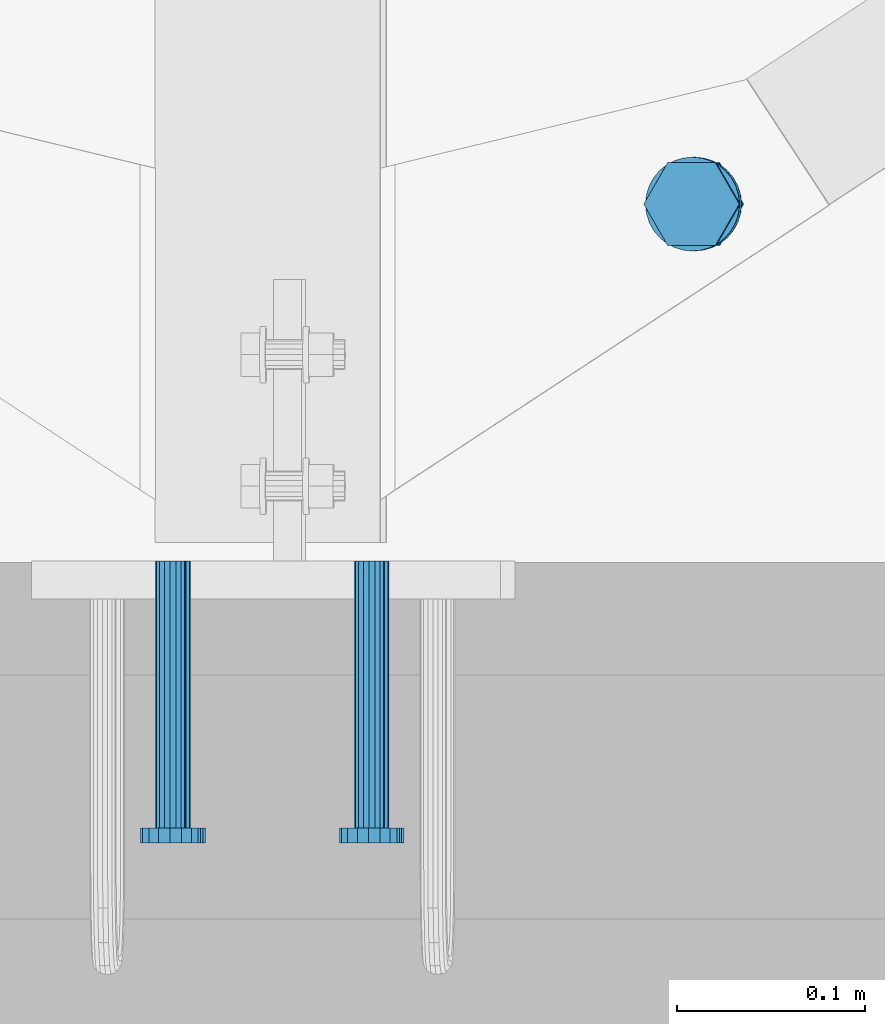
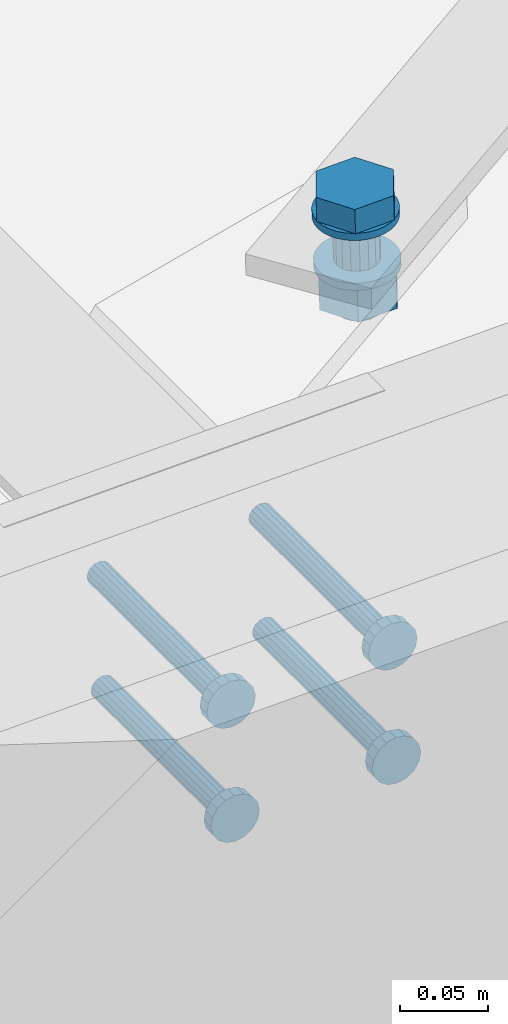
# One storey, part 107 of 476: 5 mechanical fasteners.
"""IFC2X3 building model written with IfcOpenShell, lengths in millimetres."""

from ifc_helpers import new_model, entity, si_unit, converted_unit, origin_with_axes, place, context, project, spatial, faceted_brep, element, save


model = new_model("IFC2X3")

# Units and contexts
model_context = context("Model", 3, precision=1e-09, world=origin_with_axes())
ifc_project = project(units=[si_unit("LENGTHUNIT", "METRE", prefix="MILLI"), si_unit("AREAUNIT", "SQUARE_METRE"), si_unit("VOLUMEUNIT", "CUBIC_METRE"), converted_unit("PLANEANGLEUNIT", "DEGREE", entity("IfcPlaneAngleMeasure", 0.01745329), si_unit("PLANEANGLEUNIT", "RADIAN"), dimensions=[0, 0, 0, 0, 0, 0, 0])], contexts=[model_context])

# Site, building, storey
site_placement = place(None, origin_with_axes())
site = spatial("IfcSite", under=ifc_project, at=site_placement, Name="mKR Teilneubau & Sanierung BA1 - Ostfildern", CompositionType="ELEMENT")
building_placement = place(site_placement, origin_with_axes())
building = spatial("IfcBuilding", under=site, at=building_placement, Name="Struktur 1", CompositionType="ELEMENT")
storey_placement = place(building_placement, origin_with_axes())
storey = spatial("IfcBuildingStorey", under=building, at=storey_placement, Name="Default Storey", CompositionType="ELEMENT", Elevation=0.0)

# Mechanical fasteners
mechanical_fastener_1_placement = place(None, origin_with_axes())
element("IfcMechanicalFastener", 1, at=mechanical_fastener_1_placement, inside=storey, ObjectType="-", NominalDiameter=27.0, NominalLength=70.0, context=model_context, shape_type="Brep", body=[
    faceted_brep([(15290.393068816, -23314.458323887, 5443.462389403), (15290.24297143, -23314.458323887, 5448.460135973), (15295.118031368, -23314.938691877, 5448.60654871), (15295.268128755, -23314.938691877, 5443.60880214), (15299.805745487, -23316.361335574, 5448.747334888), (15299.955842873, -23316.361335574, 5443.749588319), (15304.125967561, -23318.67158358, 5448.877084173), (15304.276064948, -23318.67158358, 5443.879337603), (15307.91267388, -23321.780654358, 5448.990810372), (15308.062771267, -23321.780654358, 5443.993063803), (15311.020343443, -23325.569068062, 5449.084143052), (15311.17044083, -23325.569068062, 5444.086396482), (15313.329550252, -23329.891238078, 5449.153495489), (15313.479647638, -23329.891238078, 5444.15574892), (15314.751552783, -23334.581065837, 5449.19620251), (15314.90165017, -23334.581065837, 5444.19845594), (15315.231704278, -23339.458323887, 5449.210622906), (15315.381801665, -23339.458323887, 5444.212876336), (15314.751552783, -23344.335581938, 5449.19620251), (15314.90165017, -23344.335581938, 5444.19845594), (15313.329550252, -23349.025409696, 5449.153495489), (15313.479647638, -23349.025409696, 5444.15574892), (15311.020343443, -23353.347579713, 5449.084143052), (15311.17044083, -23353.347579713, 5444.086396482), (15307.91267388, -23357.135993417, 5448.990810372), (15308.062771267, -23357.135993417, 5443.993063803), (15304.125967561, -23360.245064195, 5448.877084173), (15304.276064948, -23360.245064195, 5443.879337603), (15299.805745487, -23362.5553122, 5448.747334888), (15299.955842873, -23362.5553122, 5443.749588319), (15295.118031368, -23363.977955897, 5448.60654871), (15295.268128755, -23363.977955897, 5443.60880214), (15290.24297143, -23364.458323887, 5448.460135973), (15290.393068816, -23364.458323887, 5443.462389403), (15285.367911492, -23363.977955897, 5448.313723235), (15285.518008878, -23363.977955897, 5443.315976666), (15280.680197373, -23362.5553122, 5448.172937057), (15280.83029476, -23362.5553122, 5443.175190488), (15276.359975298, -23360.245064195, 5448.043187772), (15276.510072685, -23360.245064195, 5443.045441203), (15272.57326898, -23357.135993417, 5447.929461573), (15272.723366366, -23357.135993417, 5442.931715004), (15269.465599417, -23353.347579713, 5447.836128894), (15269.615696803, -23353.347579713, 5442.838382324), (15267.156392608, -23349.025409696, 5447.766776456), (15267.306489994, -23349.025409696, 5442.769029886), (15265.734390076, -23344.335581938, 5447.724069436), (15265.884487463, -23344.335581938, 5442.726322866), (15265.254238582, -23339.458323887, 5447.70964904), (15265.404335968, -23339.458323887, 5442.71190247), (15265.734390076, -23334.581065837, 5447.724069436), (15265.884487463, -23334.581065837, 5442.726322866), (15267.156392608, -23329.891238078, 5447.766776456), (15267.306489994, -23329.891238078, 5442.769029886), (15269.465599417, -23325.569068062, 5447.836128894), (15269.615696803, -23325.569068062, 5442.838382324), (15272.57326898, -23321.780654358, 5447.929461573), (15272.723366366, -23321.780654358, 5442.931715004), (15276.359975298, -23318.67158358, 5448.043187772), (15276.510072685, -23318.67158358, 5443.045441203), (15280.680197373, -23316.361335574, 5448.172937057), (15280.83029476, -23316.361335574, 5443.175190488), (15285.367911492, -23314.938691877, 5448.313723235), (15285.518008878, -23314.938691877, 5443.315976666)], [[[0, 1, 2, 3]], [[3, 2, 4, 5]], [[5, 4, 6, 7]], [[7, 6, 8, 9]], [[9, 8, 10, 11]], [[11, 10, 12, 13]], [[13, 12, 14, 15]], [[15, 14, 16, 17]], [[17, 16, 18, 19]], [[19, 18, 20, 21]], [[21, 20, 22, 23]], [[23, 22, 24, 25]], [[25, 24, 26, 27]], [[27, 26, 28, 29]], [[29, 28, 30, 31]], [[31, 30, 32, 33]], [[33, 32, 34, 35]], [[35, 34, 36, 37]], [[37, 36, 38, 39]], [[39, 38, 40, 41]], [[41, 40, 42, 43]], [[43, 42, 44, 45]], [[45, 44, 46, 47]], [[47, 46, 48, 49]], [[49, 48, 50, 51]], [[51, 50, 52, 53]], [[53, 52, 54, 55]], [[55, 54, 56, 57]], [[57, 56, 58, 59]], [[59, 58, 60, 61]], [[61, 60, 62, 63]], [[63, 62, 1, 0]], [[2, 1, 62, 60, 58, 56, 54, 52, 50, 48, 46, 44, 42, 40, 38, 36, 34, 32, 30, 28, 26, 24, 22, 20, 18, 16, 14, 12, 10, 8, 6, 4]], [[63, 0, 3, 5, 7, 9, 11, 13, 15, 17, 19, 21, 23, 25, 27, 29, 31, 33, 35, 37, 39, 41, 43, 45, 47, 49, 51, 53, 55, 57, 59, 61]]]),
    faceted_brep([(15302.439410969, -23361.477019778, 5465.834096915), (15302.949742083, -23361.477019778, 5448.841758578), (15315.656512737, -23339.458323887, 5449.223381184), (15315.146181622, -23339.458323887, 5466.21571952), (15302.949742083, -23317.439627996, 5448.841758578), (15302.439410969, -23317.439627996, 5465.834096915), (15277.536200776, -23317.439627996, 5448.078513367), (15277.025869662, -23317.439627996, 5465.070851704), (15264.829430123, -23339.458323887, 5447.696890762), (15264.319099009, -23339.458323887, 5464.689229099), (15277.536200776, -23361.477019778, 5448.078513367), (15277.025869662, -23361.477019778, 5465.070851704)], [[[0, 1, 2, 3]], [[3, 2, 4, 5]], [[5, 4, 6, 7]], [[7, 6, 8, 9]], [[9, 8, 10, 11]], [[11, 10, 1, 0]], [[3, 5, 7, 9, 11, 0]], [[2, 1, 10, 8, 6, 4]]]),
    faceted_brep([(15291.291363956, -23325.958323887, 5413.552132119), (15290.393068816, -23325.958323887, 5443.462389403), (15295.556966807, -23326.985950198, 5443.617476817), (15296.455261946, -23326.985950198, 5413.707219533), (15299.93470814, -23329.912382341, 5443.748953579), (15300.833003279, -23329.912382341, 5413.838696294), (15302.85982138, -23334.29209755, 5443.836803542), (15303.758116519, -23334.29209755, 5413.926546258), (15303.886984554, -23339.458323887, 5443.867652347), (15304.785279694, -23339.458323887, 5413.957395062), (15302.85982138, -23344.624550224, 5443.836803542), (15303.758116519, -23344.624550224, 5413.926546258), (15299.93470814, -23349.004265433, 5443.748953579), (15300.833003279, -23349.004265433, 5413.838696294), (15295.556966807, -23351.930697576, 5443.617476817), (15296.455261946, -23351.930697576, 5413.707219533), (15290.393068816, -23352.958323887, 5443.462389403), (15291.291363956, -23352.958323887, 5413.552132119), (15285.229170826, -23351.930697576, 5443.307301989), (15286.127465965, -23351.930697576, 5413.397044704), (15280.851429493, -23349.004265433, 5443.175825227), (15281.749724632, -23349.004265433, 5413.265567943), (15277.926316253, -23344.624550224, 5443.087975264), (15278.824611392, -23344.624550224, 5413.17771798), (15276.899153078, -23339.458323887, 5443.057126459), (15277.797448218, -23339.458323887, 5413.146869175), (15277.926316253, -23334.29209755, 5443.087975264), (15278.824611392, -23334.29209755, 5413.17771798), (15280.851429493, -23329.912382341, 5443.175825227), (15281.749724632, -23329.912382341, 5413.265567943), (15285.229170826, -23326.985950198, 5443.307301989), (15286.127465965, -23326.985950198, 5413.397044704)], [[[0, 1, 2, 3]], [[3, 2, 4, 5]], [[5, 4, 6, 7]], [[7, 6, 8, 9]], [[9, 8, 10, 11]], [[11, 10, 12, 13]], [[13, 12, 14, 15]], [[15, 14, 16, 17]], [[17, 16, 18, 19]], [[19, 18, 20, 21]], [[21, 20, 22, 23]], [[23, 22, 24, 25]], [[25, 24, 26, 27]], [[27, 26, 28, 29]], [[29, 28, 30, 31]], [[31, 30, 1, 0]], [[2, 1, 30, 28, 26, 24, 22, 20, 18, 16, 14, 12, 10, 8, 6, 4]], [[31, 0, 3, 5, 7, 9, 11, 13, 15, 17, 19, 21, 23, 25, 27, 29]]]),
    faceted_brep([(15291.441461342, -23314.458323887, 5408.554385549), (15291.291363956, -23314.458323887, 5413.552132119), (15296.166423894, -23314.938691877, 5413.698544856), (15296.31652128, -23314.938691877, 5408.700798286), (15300.854138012, -23316.361335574, 5413.839331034), (15301.004235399, -23316.361335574, 5408.841584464), (15305.174360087, -23318.67158358, 5413.969080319), (15305.324457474, -23318.67158358, 5408.971333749), (15308.961066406, -23321.780654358, 5414.082806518), (15309.111163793, -23321.780654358, 5409.085059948), (15312.068735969, -23325.569068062, 5414.176139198), (15312.218833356, -23325.569068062, 5409.178392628), (15314.377942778, -23329.891238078, 5414.245491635), (15314.528040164, -23329.891238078, 5409.247745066), (15315.799945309, -23334.581065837, 5414.288198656), (15315.950042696, -23334.581065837, 5409.290452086), (15316.280096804, -23339.458323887, 5414.302619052), (15316.430194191, -23339.458323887, 5409.304872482), (15315.799945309, -23344.335581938, 5414.288198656), (15315.950042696, -23344.335581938, 5409.290452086), (15314.377942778, -23349.025409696, 5414.245491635), (15314.528040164, -23349.025409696, 5409.247745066), (15312.068735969, -23353.347579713, 5414.176139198), (15312.218833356, -23353.347579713, 5409.178392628), (15308.961066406, -23357.135993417, 5414.082806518), (15309.111163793, -23357.135993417, 5409.085059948), (15305.174360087, -23360.245064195, 5413.969080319), (15305.324457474, -23360.245064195, 5408.971333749), (15300.854138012, -23362.5553122, 5413.839331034), (15301.004235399, -23362.5553122, 5408.841584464), (15296.166423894, -23363.977955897, 5413.698544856), (15296.31652128, -23363.977955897, 5408.700798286), (15291.291363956, -23364.458323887, 5413.552132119), (15291.441461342, -23364.458323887, 5408.554385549), (15286.416304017, -23363.977955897, 5413.405719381), (15286.566401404, -23363.977955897, 5408.407972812), (15281.728589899, -23362.5553122, 5413.264933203), (15281.878687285, -23362.5553122, 5408.267186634), (15277.408367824, -23360.245064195, 5413.135183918), (15277.558465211, -23360.245064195, 5408.137437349), (15273.621661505, -23357.135993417, 5413.021457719), (15273.771758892, -23357.135993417, 5408.02371115), (15270.513991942, -23353.347579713, 5412.928125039), (15270.664089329, -23353.347579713, 5407.93037847), (15268.204785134, -23349.025409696, 5412.858772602), (15268.35488252, -23349.025409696, 5407.861026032), (15266.782782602, -23344.335581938, 5412.816065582), (15266.932879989, -23344.335581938, 5407.818319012), (15266.302631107, -23339.458323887, 5412.801645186), (15266.452728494, -23339.458323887, 5407.803898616), (15266.782782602, -23334.581065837, 5412.816065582), (15266.932879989, -23334.581065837, 5407.818319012), (15268.204785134, -23329.891238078, 5412.858772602), (15268.35488252, -23329.891238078, 5407.861026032), (15270.513991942, -23325.569068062, 5412.928125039), (15270.664089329, -23325.569068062, 5407.93037847), (15273.621661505, -23321.780654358, 5413.021457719), (15273.771758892, -23321.780654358, 5408.02371115), (15277.408367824, -23318.67158358, 5413.135183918), (15277.558465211, -23318.67158358, 5408.137437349), (15281.728589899, -23316.361335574, 5413.264933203), (15281.878687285, -23316.361335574, 5408.267186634), (15286.416304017, -23314.938691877, 5413.405719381), (15286.566401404, -23314.938691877, 5408.407972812)], [[[0, 1, 2, 3]], [[3, 2, 4, 5]], [[5, 4, 6, 7]], [[7, 6, 8, 9]], [[9, 8, 10, 11]], [[11, 10, 12, 13]], [[13, 12, 14, 15]], [[15, 14, 16, 17]], [[17, 16, 18, 19]], [[19, 18, 20, 21]], [[21, 20, 22, 23]], [[23, 22, 24, 25]], [[25, 24, 26, 27]], [[27, 26, 28, 29]], [[29, 28, 30, 31]], [[31, 30, 32, 33]], [[33, 32, 34, 35]], [[35, 34, 36, 37]], [[37, 36, 38, 39]], [[39, 38, 40, 41]], [[41, 40, 42, 43]], [[43, 42, 44, 45]], [[45, 44, 46, 47]], [[47, 46, 48, 49]], [[49, 48, 50, 51]], [[51, 50, 52, 53]], [[53, 52, 54, 55]], [[55, 54, 56, 57]], [[57, 56, 58, 59]], [[59, 58, 60, 61]], [[61, 60, 62, 63]], [[63, 62, 1, 0]], [[2, 1, 62, 60, 58, 56, 54, 52, 50, 48, 46, 44, 42, 40, 38, 36, 34, 32, 30, 28, 26, 24, 22, 20, 18, 16, 14, 12, 10, 8, 6, 4]], [[63, 0, 3, 5, 7, 9, 11, 13, 15, 17, 19, 21, 23, 25, 27, 29, 31, 33, 35, 37, 39, 41, 43, 45, 47, 49, 51, 53, 55, 57, 59, 61]]]),
    faceted_brep([(15304.185715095, -23361.541971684, 5408.937133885), (15304.846143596, -23361.541971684, 5386.947048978), (15317.590397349, -23339.458323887, 5387.329797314), (15316.929968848, -23339.458323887, 5409.319882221), (15304.846143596, -23317.374676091, 5386.947048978), (15304.185715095, -23317.374676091, 5408.937133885), (15279.357636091, -23317.374676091, 5386.181552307), (15278.69720759, -23317.374676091, 5408.171637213), (15266.613382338, -23339.458323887, 5385.798803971), (15265.952953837, -23339.458323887, 5407.788888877), (15279.357636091, -23361.541971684, 5386.181552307), (15278.69720759, -23361.541971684, 5408.171637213)], [[[0, 1, 2, 3]], [[3, 2, 4, 5]], [[5, 4, 6, 7]], [[7, 6, 8, 9]], [[9, 8, 10, 11]], [[11, 10, 1, 0]], [[3, 5, 7, 9, 11, 0]], [[2, 1, 10, 8, 6, 4]]]),
    faceted_brep([(15292.344334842, -23325.958323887, 5378.491683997), (15292.101889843, -23325.958323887, 5386.564300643), (15297.265787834, -23326.985950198, 5386.719388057), (15297.508232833, -23326.985950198, 5378.646771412), (15301.643529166, -23329.912382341, 5386.850864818), (15301.885974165, -23329.912382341, 5378.778248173), (15304.568642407, -23334.29209755, 5386.938714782), (15304.811087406, -23334.29209755, 5378.866098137), (15305.595805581, -23339.458323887, 5386.969563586), (15305.83825058, -23339.458323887, 5378.896946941), (15304.568642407, -23344.624550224, 5386.938714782), (15304.811087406, -23344.624550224, 5378.866098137), (15301.643529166, -23349.004265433, 5386.850864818), (15301.885974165, -23349.004265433, 5378.778248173), (15297.265787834, -23351.930697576, 5386.719388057), (15297.508232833, -23351.930697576, 5378.646771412), (15292.101889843, -23352.958323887, 5386.564300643), (15292.344334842, -23352.958323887, 5378.491683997), (15286.937991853, -23351.930697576, 5386.409213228), (15287.180436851, -23351.930697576, 5378.336596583), (15282.56025052, -23349.004265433, 5386.277736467), (15282.802695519, -23349.004265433, 5378.205119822), (15279.635137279, -23344.624550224, 5386.189886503), (15279.877582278, -23344.624550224, 5378.117269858), (15278.607974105, -23339.458323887, 5386.159037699), (15278.850419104, -23339.458323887, 5378.086421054), (15279.635137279, -23334.29209755, 5386.189886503), (15279.877582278, -23334.29209755, 5378.117269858), (15282.56025052, -23329.912382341, 5386.277736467), (15282.802695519, -23329.912382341, 5378.205119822), (15286.937991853, -23326.985950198, 5386.409213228), (15287.180436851, -23326.985950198, 5378.336596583)], [[[0, 1, 2, 3]], [[3, 2, 4, 5]], [[5, 4, 6, 7]], [[7, 6, 8, 9]], [[9, 8, 10, 11]], [[11, 10, 12, 13]], [[13, 12, 14, 15]], [[15, 14, 16, 17]], [[17, 16, 18, 19]], [[19, 18, 20, 21]], [[21, 20, 22, 23]], [[23, 22, 24, 25]], [[25, 24, 26, 27]], [[27, 26, 28, 29]], [[29, 28, 30, 31]], [[31, 30, 1, 0]], [[2, 1, 30, 28, 26, 24, 22, 20, 18, 16, 14, 12, 10, 8, 6, 4]], [[31, 0, 3, 5, 7, 9, 11, 13, 15, 17, 19, 21, 23, 25, 27, 29]]]),
])
mechanical_fastener_2_placement = place(None, origin_with_axes())
element("IfcMechanicalFastener", 2, at=mechanical_fastener_2_placement, inside=storey, ObjectType="-", NominalDiameter=16.0, NominalLength=150.0, context=model_context, shape_type="Brep", body=[
    faceted_brep([(15004.337215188, -23671.67387897, 5407.763831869), (15004.337215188, -23529.67387897, 5407.763831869), (15005.037876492, -23529.67387897, 5404.72204069), (15005.037876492, -23671.67387897, 5404.72204069), (15006.849246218, -23529.67387897, 5402.17992355), (15006.849246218, -23671.67387897, 5402.17992355), (15009.495559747, -23529.67387897, 5400.52449474), (15009.495559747, -23671.67387897, 5400.52449474), (15012.573939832, -23529.67387897, 5400.007778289), (15012.573939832, -23671.67387897, 5400.007778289), (15015.615731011, -23529.67387897, 5400.708439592), (15015.615731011, -23671.67387897, 5400.708439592), (15018.157848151, -23529.67387897, 5402.519809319), (15018.157848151, -23671.67387897, 5402.519809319), (15019.813276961, -23529.67387897, 5405.166122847), (15019.813276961, -23671.67387897, 5405.166122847), (15020.329993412, -23529.67387897, 5408.244502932), (15020.329993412, -23671.67387897, 5408.244502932), (15019.629332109, -23529.67387897, 5411.286294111), (15019.629332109, -23671.67387897, 5411.286294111), (15017.817962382, -23529.67387897, 5413.828411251), (15017.817962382, -23671.67387897, 5413.828411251), (15015.171648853, -23529.67387897, 5415.483840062), (15015.171648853, -23671.67387897, 5415.483840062), (15012.093268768, -23529.67387897, 5416.000556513), (15012.093268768, -23671.67387897, 5416.000556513), (15009.05147759, -23529.67387897, 5415.299895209), (15009.05147759, -23671.67387897, 5415.299895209), (15006.50936045, -23529.67387897, 5413.488525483), (15006.50936045, -23671.67387897, 5413.488525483), (15004.853931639, -23529.67387897, 5410.842211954), (15004.853931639, -23671.67387897, 5410.842211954)], [[[0, 1, 2, 3]], [[3, 2, 4, 5]], [[5, 4, 6, 7]], [[7, 6, 8, 9]], [[9, 8, 10, 11]], [[11, 10, 12, 13]], [[13, 12, 14, 15]], [[15, 14, 16, 17]], [[17, 16, 18, 19]], [[19, 18, 20, 21]], [[21, 20, 22, 23]], [[23, 22, 24, 25]], [[25, 24, 26, 27]], [[27, 26, 28, 29]], [[29, 28, 30, 31]], [[31, 30, 1, 0]], [[0, 3, 5, 7, 9, 11, 13, 15, 17, 19, 21, 23, 25, 27, 29, 31]], [[1, 30, 28, 26, 24, 22, 20, 18, 16, 14, 12, 10, 8, 6, 4, 2]]]),
    faceted_brep([(14996.340826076, -23679.67387897, 5407.523496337), (14996.340826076, -23671.67387897, 5407.523496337), (14997.742148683, -23671.67387897, 5401.439913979), (14997.742148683, -23679.67387897, 5401.439913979), (15001.364888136, -23671.67387897, 5396.3556797), (15001.364888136, -23679.67387897, 5396.3556797), (15006.657515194, -23671.67387897, 5393.044822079), (15006.657515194, -23679.67387897, 5393.044822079), (15012.814275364, -23671.67387897, 5392.011389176), (15012.814275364, -23679.67387897, 5392.011389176), (15018.897857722, -23671.67387897, 5393.412711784), (15018.897857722, -23679.67387897, 5393.412711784), (15023.982092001, -23671.67387897, 5397.035451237), (15023.982092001, -23679.67387897, 5397.035451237), (15027.292949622, -23671.67387897, 5402.328078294), (15027.292949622, -23679.67387897, 5402.328078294), (15028.326382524, -23671.67387897, 5408.484838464), (15028.326382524, -23679.67387897, 5408.484838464), (15026.925059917, -23671.67387897, 5414.568420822), (15026.925059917, -23679.67387897, 5414.568420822), (15023.302320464, -23671.67387897, 5419.652655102), (15023.302320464, -23679.67387897, 5419.652655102), (15018.009693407, -23671.67387897, 5422.963512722), (15018.009693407, -23679.67387897, 5422.963512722), (15011.852933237, -23671.67387897, 5423.996945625), (15011.852933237, -23679.67387897, 5423.996945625), (15005.769350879, -23671.67387897, 5422.595623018), (15005.769350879, -23679.67387897, 5422.595623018), (15000.685116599, -23671.67387897, 5418.972883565), (15000.685116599, -23679.67387897, 5418.972883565), (14997.374258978, -23671.67387897, 5413.680256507), (14997.374258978, -23679.67387897, 5413.680256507)], [[[0, 1, 2, 3]], [[3, 2, 4, 5]], [[5, 4, 6, 7]], [[7, 6, 8, 9]], [[9, 8, 10, 11]], [[11, 10, 12, 13]], [[13, 12, 14, 15]], [[15, 14, 16, 17]], [[17, 16, 18, 19]], [[19, 18, 20, 21]], [[21, 20, 22, 23]], [[23, 22, 24, 25]], [[25, 24, 26, 27]], [[27, 26, 28, 29]], [[29, 28, 30, 31]], [[31, 30, 1, 0]], [[0, 3, 5, 7, 9, 11, 13, 15, 17, 19, 21, 23, 25, 27, 29, 31]], [[1, 30, 28, 26, 24, 22, 20, 18, 16, 14, 12, 10, 8, 6, 4, 2]]]),
])
mechanical_fastener_3_placement = place(None, origin_with_axes())
element("IfcMechanicalFastener", 3, at=mechanical_fastener_3_placement, inside=storey, ObjectType="-", NominalDiameter=16.0, NominalLength=150.0, context=model_context, shape_type="Brep", body=[
    faceted_brep([(15110.289370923, -23671.67387897, 5410.948277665), (15110.289370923, -23529.67387897, 5410.948277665), (15110.990032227, -23529.67387897, 5407.906486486), (15110.990032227, -23671.67387897, 5407.906486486), (15112.801401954, -23529.67387897, 5405.364369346), (15112.801401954, -23671.67387897, 5405.364369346), (15115.447715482, -23529.67387897, 5403.708940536), (15115.447715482, -23671.67387897, 5403.708940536), (15118.526095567, -23529.67387897, 5403.192224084), (15118.526095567, -23671.67387897, 5403.192224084), (15121.567886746, -23529.67387897, 5403.892885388), (15121.567886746, -23671.67387897, 5403.892885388), (15124.110003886, -23529.67387897, 5405.704255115), (15124.110003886, -23671.67387897, 5405.704255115), (15125.765432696, -23529.67387897, 5408.350568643), (15125.765432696, -23671.67387897, 5408.350568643), (15126.282149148, -23529.67387897, 5411.428948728), (15126.282149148, -23671.67387897, 5411.428948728), (15125.581487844, -23529.67387897, 5414.470739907), (15125.581487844, -23671.67387897, 5414.470739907), (15123.770118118, -23529.67387897, 5417.012857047), (15123.770118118, -23671.67387897, 5417.012857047), (15121.123804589, -23529.67387897, 5418.668285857), (15121.123804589, -23671.67387897, 5418.668285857), (15118.045424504, -23529.67387897, 5419.185002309), (15118.045424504, -23671.67387897, 5419.185002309), (15115.003633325, -23529.67387897, 5418.484341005), (15115.003633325, -23671.67387897, 5418.484341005), (15112.461516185, -23529.67387897, 5416.672971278), (15112.461516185, -23671.67387897, 5416.672971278), (15110.806087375, -23529.67387897, 5414.02665775), (15110.806087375, -23671.67387897, 5414.02665775)], [[[0, 1, 2, 3]], [[3, 2, 4, 5]], [[5, 4, 6, 7]], [[7, 6, 8, 9]], [[9, 8, 10, 11]], [[11, 10, 12, 13]], [[13, 12, 14, 15]], [[15, 14, 16, 17]], [[17, 16, 18, 19]], [[19, 18, 20, 21]], [[21, 20, 22, 23]], [[23, 22, 24, 25]], [[25, 24, 26, 27]], [[27, 26, 28, 29]], [[29, 28, 30, 31]], [[31, 30, 1, 0]], [[0, 3, 5, 7, 9, 11, 13, 15, 17, 19, 21, 23, 25, 27, 29, 31]], [[1, 30, 28, 26, 24, 22, 20, 18, 16, 14, 12, 10, 8, 6, 4, 2]]]),
    faceted_brep([(15102.292981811, -23679.67387897, 5410.707942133), (15102.292981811, -23671.67387897, 5410.707942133), (15103.694304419, -23671.67387897, 5404.624359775), (15103.694304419, -23679.67387897, 5404.624359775), (15107.317043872, -23671.67387897, 5399.540125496), (15107.317043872, -23679.67387897, 5399.540125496), (15112.609670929, -23671.67387897, 5396.229267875), (15112.609670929, -23679.67387897, 5396.229267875), (15118.766431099, -23671.67387897, 5395.195834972), (15118.766431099, -23679.67387897, 5395.195834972), (15124.850013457, -23671.67387897, 5396.59715758), (15124.850013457, -23679.67387897, 5396.59715758), (15129.934247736, -23671.67387897, 5400.219897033), (15129.934247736, -23679.67387897, 5400.219897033), (15133.245105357, -23671.67387897, 5405.51252409), (15133.245105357, -23679.67387897, 5405.51252409), (15134.27853826, -23671.67387897, 5411.66928426), (15134.27853826, -23679.67387897, 5411.66928426), (15132.877215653, -23671.67387897, 5417.752866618), (15132.877215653, -23679.67387897, 5417.752866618), (15129.254476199, -23671.67387897, 5422.837100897), (15129.254476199, -23679.67387897, 5422.837100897), (15123.961849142, -23671.67387897, 5426.147958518), (15123.961849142, -23679.67387897, 5426.147958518), (15117.805088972, -23671.67387897, 5427.181391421), (15117.805088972, -23679.67387897, 5427.181391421), (15111.721506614, -23671.67387897, 5425.780068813), (15111.721506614, -23679.67387897, 5425.780068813), (15106.637272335, -23671.67387897, 5422.15732936), (15106.637272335, -23679.67387897, 5422.15732936), (15103.326414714, -23671.67387897, 5416.864702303), (15103.326414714, -23679.67387897, 5416.864702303)], [[[0, 1, 2, 3]], [[3, 2, 4, 5]], [[5, 4, 6, 7]], [[7, 6, 8, 9]], [[9, 8, 10, 11]], [[11, 10, 12, 13]], [[13, 12, 14, 15]], [[15, 14, 16, 17]], [[17, 16, 18, 19]], [[19, 18, 20, 21]], [[21, 20, 22, 23]], [[23, 22, 24, 25]], [[25, 24, 26, 27]], [[27, 26, 28, 29]], [[29, 28, 30, 31]], [[31, 30, 1, 0]], [[0, 3, 5, 7, 9, 11, 13, 15, 17, 19, 21, 23, 25, 27, 29, 31]], [[1, 30, 28, 26, 24, 22, 20, 18, 16, 14, 12, 10, 8, 6, 4, 2]]]),
])
mechanical_fastener_4_placement = place(None, origin_with_axes())
element("IfcMechanicalFastener", 4, at=mechanical_fastener_4_placement, inside=storey, ObjectType="-", NominalDiameter=16.0, NominalLength=150.0, context=model_context, shape_type="Brep", body=[
    faceted_brep([(15112.692726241, -23671.67387897, 5330.984386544), (15112.692726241, -23529.67387897, 5330.984386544), (15113.393387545, -23529.67387897, 5327.942595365), (15113.393387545, -23671.67387897, 5327.942595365), (15115.204757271, -23529.67387897, 5325.400478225), (15115.204757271, -23671.67387897, 5325.400478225), (15117.8510708, -23529.67387897, 5323.745049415), (15117.8510708, -23671.67387897, 5323.745049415), (15120.929450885, -23529.67387897, 5323.228332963), (15120.929450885, -23671.67387897, 5323.228332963), (15123.971242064, -23529.67387897, 5323.928994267), (15123.971242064, -23671.67387897, 5323.928994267), (15126.513359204, -23529.67387897, 5325.740363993), (15126.513359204, -23671.67387897, 5325.740363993), (15128.168788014, -23529.67387897, 5328.386677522), (15128.168788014, -23671.67387897, 5328.386677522), (15128.685504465, -23529.67387897, 5331.465057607), (15128.685504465, -23671.67387897, 5331.465057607), (15127.984843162, -23529.67387897, 5334.506848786), (15127.984843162, -23671.67387897, 5334.506848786), (15126.173473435, -23529.67387897, 5337.048965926), (15126.173473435, -23671.67387897, 5337.048965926), (15123.527159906, -23529.67387897, 5338.704394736), (15123.527159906, -23671.67387897, 5338.704394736), (15120.448779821, -23529.67387897, 5339.221111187), (15120.448779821, -23671.67387897, 5339.221111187), (15117.406988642, -23529.67387897, 5338.520449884), (15117.406988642, -23671.67387897, 5338.520449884), (15114.864871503, -23529.67387897, 5336.709080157), (15114.864871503, -23671.67387897, 5336.709080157), (15113.209442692, -23529.67387897, 5334.062766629), (15113.209442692, -23671.67387897, 5334.062766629)], [[[0, 1, 2, 3]], [[3, 2, 4, 5]], [[5, 4, 6, 7]], [[7, 6, 8, 9]], [[9, 8, 10, 11]], [[11, 10, 12, 13]], [[13, 12, 14, 15]], [[15, 14, 16, 17]], [[17, 16, 18, 19]], [[19, 18, 20, 21]], [[21, 20, 22, 23]], [[23, 22, 24, 25]], [[25, 24, 26, 27]], [[27, 26, 28, 29]], [[29, 28, 30, 31]], [[31, 30, 1, 0]], [[0, 3, 5, 7, 9, 11, 13, 15, 17, 19, 21, 23, 25, 27, 29, 31]], [[1, 30, 28, 26, 24, 22, 20, 18, 16, 14, 12, 10, 8, 6, 4, 2]]]),
    faceted_brep([(15104.696337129, -23679.67387897, 5330.744051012), (15104.696337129, -23671.67387897, 5330.744051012), (15106.097659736, -23671.67387897, 5324.660468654), (15106.097659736, -23679.67387897, 5324.660468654), (15109.720399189, -23671.67387897, 5319.576234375), (15109.720399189, -23679.67387897, 5319.576234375), (15115.013026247, -23671.67387897, 5316.265376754), (15115.013026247, -23679.67387897, 5316.265376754), (15121.169786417, -23671.67387897, 5315.231943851), (15121.169786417, -23679.67387897, 5315.231943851), (15127.253368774, -23671.67387897, 5316.633266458), (15127.253368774, -23679.67387897, 5316.633266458), (15132.337603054, -23671.67387897, 5320.256005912), (15132.337603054, -23679.67387897, 5320.256005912), (15135.648460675, -23671.67387897, 5325.548632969), (15135.648460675, -23679.67387897, 5325.548632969), (15136.681893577, -23671.67387897, 5331.705393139), (15136.681893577, -23679.67387897, 5331.705393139), (15135.28057097, -23671.67387897, 5337.788975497), (15135.28057097, -23679.67387897, 5337.788975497), (15131.657831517, -23671.67387897, 5342.873209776), (15131.657831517, -23679.67387897, 5342.873209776), (15126.36520446, -23671.67387897, 5346.184067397), (15126.36520446, -23679.67387897, 5346.184067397), (15120.20844429, -23671.67387897, 5347.2175003), (15120.20844429, -23679.67387897, 5347.2175003), (15114.124861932, -23671.67387897, 5345.816177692), (15114.124861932, -23679.67387897, 5345.816177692), (15109.040627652, -23671.67387897, 5342.193438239), (15109.040627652, -23679.67387897, 5342.193438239), (15105.729770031, -23671.67387897, 5336.900811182), (15105.729770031, -23679.67387897, 5336.900811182)], [[[0, 1, 2, 3]], [[3, 2, 4, 5]], [[5, 4, 6, 7]], [[7, 6, 8, 9]], [[9, 8, 10, 11]], [[11, 10, 12, 13]], [[13, 12, 14, 15]], [[15, 14, 16, 17]], [[17, 16, 18, 19]], [[19, 18, 20, 21]], [[21, 20, 22, 23]], [[23, 22, 24, 25]], [[25, 24, 26, 27]], [[27, 26, 28, 29]], [[29, 28, 30, 31]], [[31, 30, 1, 0]], [[0, 3, 5, 7, 9, 11, 13, 15, 17, 19, 21, 23, 25, 27, 29, 31]], [[1, 30, 28, 26, 24, 22, 20, 18, 16, 14, 12, 10, 8, 6, 4, 2]]]),
])
mechanical_fastener_5_placement = place(None, origin_with_axes())
element("IfcMechanicalFastener", 5, at=mechanical_fastener_5_placement, inside=storey, ObjectType="-", NominalDiameter=16.0, NominalLength=150.0, context=model_context, shape_type="Brep", body=[
    faceted_brep([(15006.954490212, -23671.67387897, 5327.806370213), (15006.954490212, -23529.67387897, 5327.806370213), (15007.655151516, -23529.67387897, 5324.764579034), (15007.655151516, -23671.67387897, 5324.764579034), (15009.466521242, -23529.67387897, 5322.222461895), (15009.466521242, -23671.67387897, 5322.222461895), (15012.112834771, -23529.67387897, 5320.567033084), (15012.112834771, -23671.67387897, 5320.567033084), (15015.191214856, -23529.67387897, 5320.050316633), (15015.191214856, -23671.67387897, 5320.050316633), (15018.233006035, -23529.67387897, 5320.750977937), (15018.233006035, -23671.67387897, 5320.750977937), (15020.775123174, -23529.67387897, 5322.562347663), (15020.775123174, -23671.67387897, 5322.562347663), (15022.430551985, -23529.67387897, 5325.208661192), (15022.430551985, -23671.67387897, 5325.208661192), (15022.947268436, -23529.67387897, 5328.287041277), (15022.947268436, -23671.67387897, 5328.287041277), (15022.246607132, -23529.67387897, 5331.328832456), (15022.246607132, -23671.67387897, 5331.328832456), (15020.435237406, -23529.67387897, 5333.870949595), (15020.435237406, -23671.67387897, 5333.870949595), (15017.788923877, -23529.67387897, 5335.526378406), (15017.788923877, -23671.67387897, 5335.526378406), (15014.710543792, -23529.67387897, 5336.043094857), (15014.710543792, -23671.67387897, 5336.043094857), (15011.668752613, -23529.67387897, 5335.342433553), (15011.668752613, -23671.67387897, 5335.342433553), (15009.126635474, -23529.67387897, 5333.531063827), (15009.126635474, -23671.67387897, 5333.531063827), (15007.471206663, -23529.67387897, 5330.884750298), (15007.471206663, -23671.67387897, 5330.884750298)], [[[0, 1, 2, 3]], [[3, 2, 4, 5]], [[5, 4, 6, 7]], [[7, 6, 8, 9]], [[9, 8, 10, 11]], [[11, 10, 12, 13]], [[13, 12, 14, 15]], [[15, 14, 16, 17]], [[17, 16, 18, 19]], [[19, 18, 20, 21]], [[21, 20, 22, 23]], [[23, 22, 24, 25]], [[25, 24, 26, 27]], [[27, 26, 28, 29]], [[29, 28, 30, 31]], [[31, 30, 1, 0]], [[0, 3, 5, 7, 9, 11, 13, 15, 17, 19, 21, 23, 25, 27, 29, 31]], [[1, 30, 28, 26, 24, 22, 20, 18, 16, 14, 12, 10, 8, 6, 4, 2]]]),
    faceted_brep([(14998.9581011, -23679.67387897, 5327.566034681), (14998.9581011, -23671.67387897, 5327.566034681), (15000.359423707, -23671.67387897, 5321.482452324), (15000.359423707, -23679.67387897, 5321.482452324), (15003.98216316, -23671.67387897, 5316.398218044), (15003.98216316, -23679.67387897, 5316.398218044), (15009.274790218, -23671.67387897, 5313.087360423), (15009.274790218, -23679.67387897, 5313.087360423), (15015.431550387, -23671.67387897, 5312.053927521), (15015.431550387, -23679.67387897, 5312.053927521), (15021.515132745, -23671.67387897, 5313.455250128), (15021.515132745, -23679.67387897, 5313.455250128), (15026.599367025, -23671.67387897, 5317.077989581), (15026.599367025, -23679.67387897, 5317.077989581), (15029.910224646, -23671.67387897, 5322.370616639), (15029.910224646, -23679.67387897, 5322.370616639), (15030.943657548, -23671.67387897, 5328.527376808), (15030.943657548, -23679.67387897, 5328.527376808), (15029.542334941, -23671.67387897, 5334.610959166), (15029.542334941, -23679.67387897, 5334.610959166), (15025.919595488, -23671.67387897, 5339.695193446), (15025.919595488, -23679.67387897, 5339.695193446), (15020.62696843, -23671.67387897, 5343.006051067), (15020.62696843, -23679.67387897, 5343.006051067), (15014.47020826, -23671.67387897, 5344.039483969), (15014.47020826, -23679.67387897, 5344.039483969), (15008.386625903, -23671.67387897, 5342.638161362), (15008.386625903, -23679.67387897, 5342.638161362), (15003.302391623, -23671.67387897, 5339.015421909), (15003.302391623, -23679.67387897, 5339.015421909), (14999.991534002, -23671.67387897, 5333.722794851), (14999.991534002, -23679.67387897, 5333.722794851)], [[[0, 1, 2, 3]], [[3, 2, 4, 5]], [[5, 4, 6, 7]], [[7, 6, 8, 9]], [[9, 8, 10, 11]], [[11, 10, 12, 13]], [[13, 12, 14, 15]], [[15, 14, 16, 17]], [[17, 16, 18, 19]], [[19, 18, 20, 21]], [[21, 20, 22, 23]], [[23, 22, 24, 25]], [[25, 24, 26, 27]], [[27, 26, 28, 29]], [[29, 28, 30, 31]], [[31, 30, 1, 0]], [[0, 3, 5, 7, 9, 11, 13, 15, 17, 19, 21, 23, 25, 27, 29, 31]], [[1, 30, 28, 26, 24, 22, 20, 18, 16, 14, 12, 10, 8, 6, 4, 2]]]),
])

save(model, "model.ifc")
